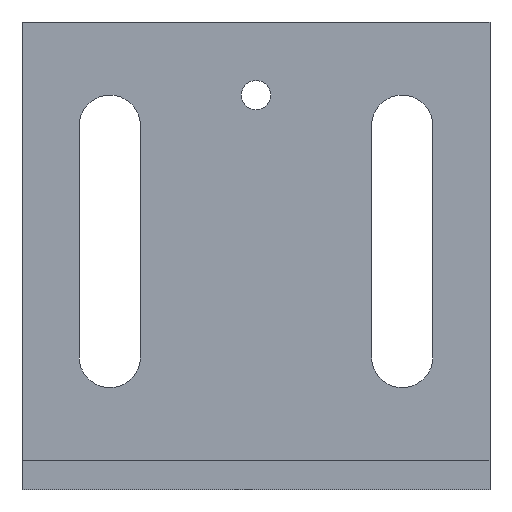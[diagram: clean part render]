
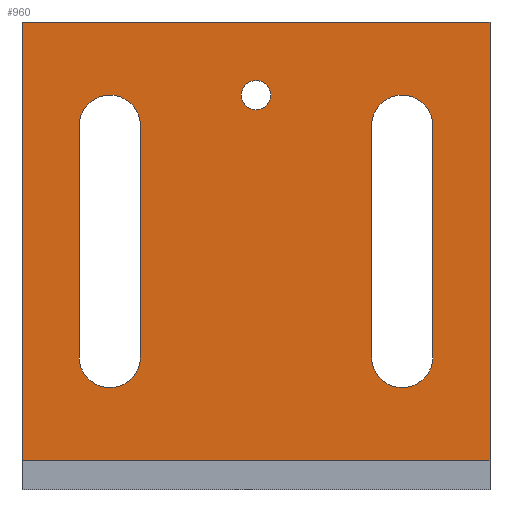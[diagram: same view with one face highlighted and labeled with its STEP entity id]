
A CAD part, front view. The second image highlights one B-rep face of the part: STEP entity #960.
In plain terms, the highlighted planar face has unit normal (0, -1, 0).
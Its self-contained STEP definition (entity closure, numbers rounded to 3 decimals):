
#21=FACE_BOUND('',#183,.T.);
#22=FACE_BOUND('',#184,.T.);
#23=FACE_BOUND('',#185,.T.);
#56=CIRCLE('',#1026,5.25);
#58=CIRCLE('',#1031,5.25);
#62=CIRCLE('',#1037,2.5);
#68=CIRCLE('',#1048,5.25);
#70=CIRCLE('',#1053,5.25);
#129=FACE_OUTER_BOUND('',#182,.T.);
#182=EDGE_LOOP('',(#797,#798,#799,#800));
#183=EDGE_LOOP('',(#801,#802,#803,#804));
#184=EDGE_LOOP('',(#805));
#185=EDGE_LOOP('',(#806,#807,#808,#809));
#244=LINE('',#1451,#341);
#252=LINE('',#1478,#349);
#262=LINE('',#1511,#359);
#270=LINE('',#1538,#367);
#281=LINE('',#1563,#378);
#282=LINE('',#1566,#379);
#283=LINE('',#1568,#380);
#284=LINE('',#1569,#381);
#341=VECTOR('',#1177,10.);
#349=VECTOR('',#1207,10.);
#359=VECTOR('',#1239,10.);
#367=VECTOR('',#1269,10.);
#378=VECTOR('',#1292,10.);
#379=VECTOR('',#1295,10.);
#380=VECTOR('',#1296,10.);
#381=VECTOR('',#1297,10.);
#438=VERTEX_POINT('',#1448);
#439=VERTEX_POINT('',#1450);
#445=VERTEX_POINT('',#1468);
#447=VERTEX_POINT('',#1477);
#451=VERTEX_POINT('',#1492);
#458=VERTEX_POINT('',#1508);
#459=VERTEX_POINT('',#1510);
#465=VERTEX_POINT('',#1528);
#467=VERTEX_POINT('',#1537);
#474=VERTEX_POINT('',#1559);
#475=VERTEX_POINT('',#1561);
#476=VERTEX_POINT('',#1565);
#477=VERTEX_POINT('',#1567);
#544=EDGE_CURVE('',#439,#438,#244,.T.);
#553=EDGE_CURVE('',#445,#439,#56,.T.);
#558=EDGE_CURVE('',#447,#445,#252,.T.);
#561=EDGE_CURVE('',#438,#447,#58,.T.);
#567=EDGE_CURVE('',#451,#451,#62,.T.);
#574=EDGE_CURVE('',#459,#458,#262,.T.);
#583=EDGE_CURVE('',#465,#459,#68,.T.);
#588=EDGE_CURVE('',#467,#465,#270,.T.);
#591=EDGE_CURVE('',#458,#467,#70,.T.);
#601=EDGE_CURVE('',#474,#475,#281,.T.);
#602=EDGE_CURVE('',#476,#474,#282,.T.);
#603=EDGE_CURVE('',#477,#475,#283,.T.);
#604=EDGE_CURVE('',#476,#477,#284,.T.);
#797=ORIENTED_EDGE('',*,*,#602,.T.);
#798=ORIENTED_EDGE('',*,*,#601,.T.);
#799=ORIENTED_EDGE('',*,*,#603,.F.);
#800=ORIENTED_EDGE('',*,*,#604,.F.);
#801=ORIENTED_EDGE('',*,*,#558,.T.);
#802=ORIENTED_EDGE('',*,*,#553,.T.);
#803=ORIENTED_EDGE('',*,*,#544,.T.);
#804=ORIENTED_EDGE('',*,*,#561,.T.);
#805=ORIENTED_EDGE('',*,*,#567,.T.);
#806=ORIENTED_EDGE('',*,*,#588,.T.);
#807=ORIENTED_EDGE('',*,*,#583,.T.);
#808=ORIENTED_EDGE('',*,*,#574,.T.);
#809=ORIENTED_EDGE('',*,*,#591,.T.);
#914=PLANE('',#1057);
#960=ADVANCED_FACE('',(#129,#21,#22,#23),#914,.T.);
#1026=AXIS2_PLACEMENT_3D('',#1469,#1197,#1198);
#1031=AXIS2_PLACEMENT_3D('',#1482,#1213,#1214);
#1037=AXIS2_PLACEMENT_3D('',#1494,#1227,#1228);
#1048=AXIS2_PLACEMENT_3D('',#1529,#1259,#1260);
#1053=AXIS2_PLACEMENT_3D('',#1542,#1275,#1276);
#1057=AXIS2_PLACEMENT_3D('',#1564,#1293,#1294);
#1177=DIRECTION('',(0.,0.,1.));
#1197=DIRECTION('center_axis',(0.,1.,0.));
#1198=DIRECTION('ref_axis',(-1.,0.,0.));
#1207=DIRECTION('',(0.,0.,-1.));
#1213=DIRECTION('center_axis',(0.,1.,0.));
#1214=DIRECTION('ref_axis',(1.,0.,0.));
#1227=DIRECTION('center_axis',(0.,1.,0.));
#1228=DIRECTION('ref_axis',(1.,0.,0.));
#1239=DIRECTION('',(0.,0.,1.));
#1259=DIRECTION('center_axis',(0.,1.,0.));
#1260=DIRECTION('ref_axis',(-1.,0.,0.));
#1269=DIRECTION('',(0.,0.,-1.));
#1275=DIRECTION('center_axis',(0.,1.,0.));
#1276=DIRECTION('ref_axis',(1.,0.,0.));
#1292=DIRECTION('',(1.,0.,0.));
#1293=DIRECTION('center_axis',(0.,-1.,0.));
#1294=DIRECTION('ref_axis',(0.,0.,-1.));
#1295=DIRECTION('',(0.,0.,-1.));
#1296=DIRECTION('',(0.,0.,-1.));
#1297=DIRECTION('',(1.,0.,0.));
#1448=CARTESIAN_POINT('',(19.75,35.,62.25));
#1450=CARTESIAN_POINT('',(19.75,35.,22.75));
#1451=CARTESIAN_POINT('',(19.75,35.,71.125));
#1468=CARTESIAN_POINT('',(30.25,35.,22.75));
#1469=CARTESIAN_POINT('Origin',(25.,35.,22.75));
#1477=CARTESIAN_POINT('',(30.25,35.,62.25));
#1478=CARTESIAN_POINT('',(30.25,35.,51.375));
#1482=CARTESIAN_POINT('Origin',(25.,35.,62.25));
#1492=CARTESIAN_POINT('',(47.5,35.,67.5));
#1494=CARTESIAN_POINT('Origin',(50.,35.,67.5));
#1508=CARTESIAN_POINT('',(69.75,35.,62.25));
#1510=CARTESIAN_POINT('',(69.75,35.,22.75));
#1511=CARTESIAN_POINT('',(69.75,35.,71.125));
#1528=CARTESIAN_POINT('',(80.25,35.,22.75));
#1529=CARTESIAN_POINT('Origin',(75.,35.,22.75));
#1537=CARTESIAN_POINT('',(80.25,35.,62.25));
#1538=CARTESIAN_POINT('',(80.25,35.,51.375));
#1542=CARTESIAN_POINT('Origin',(75.,35.,62.25));
#1559=CARTESIAN_POINT('',(10.,35.,5.));
#1561=CARTESIAN_POINT('',(90.,35.,5.));
#1563=CARTESIAN_POINT('',(10.,35.,5.));
#1564=CARTESIAN_POINT('Origin',(10.,35.,80.));
#1565=CARTESIAN_POINT('',(10.,35.,80.));
#1566=CARTESIAN_POINT('',(10.,35.,80.));
#1567=CARTESIAN_POINT('',(90.,35.,80.));
#1568=CARTESIAN_POINT('',(90.,35.,80.));
#1569=CARTESIAN_POINT('',(10.,35.,80.));
